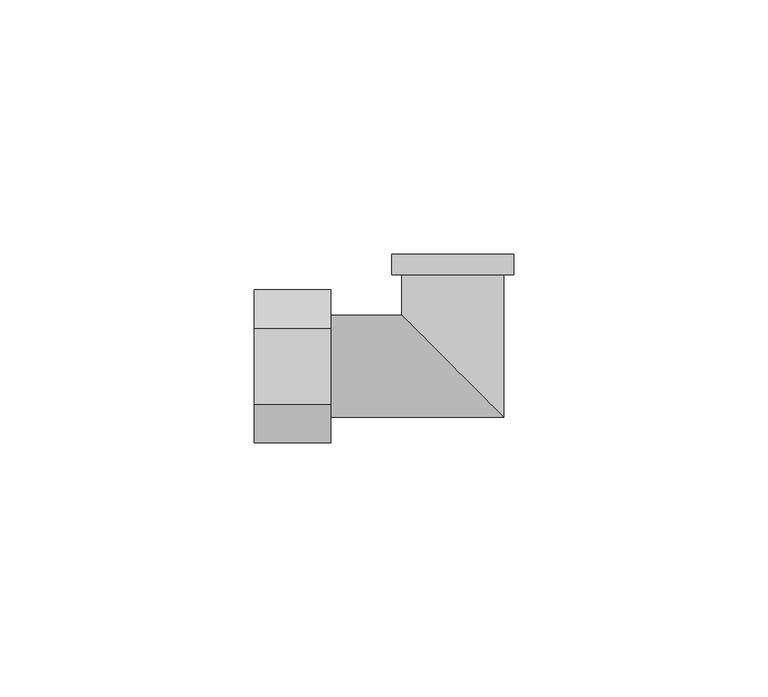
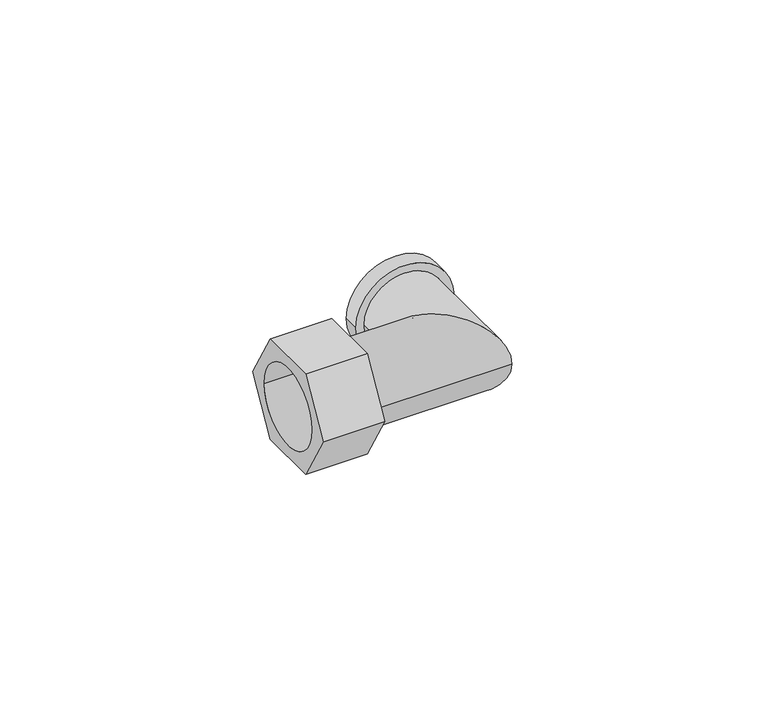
"""IFC4 building model written with IfcOpenShell, lengths in millimetres: pipe fitting geometry, БИР ПЕКС_КМП_Угольник_Резьба_Внутренняя : Угольник с внутренней резьбой_КМП."""

from ifc_helpers import new_model, si_unit, point, frame, origin, origin_2d, place, context, project, spatial, polyline, circle_curve, ellipse_curve, trimmed, segment, composite_curve, outline, extrude, source, transform, mapped, element, save
from ifc_brep_helpers import plane_surface, cylinder_surface, revolved_surface, advanced_brep


def pipe_fitting_59298400(model_context):
    return source(origin(), model_context, "Body", "SolidModel", [
        extrude(outline(polyline([(-7.5, -12.9903811), (-15.0, 0.0), (-7.5, 12.9903811), (7.5, 12.9903811), (15.0, 0.0), (7.5, -12.9903811), (-7.5, -12.9903811)]), holes=[composite_curve([segment(trimmed(circle_curve(origin_2d(), 10.0), [point((-10.0, 0.0))], [point((10.0, 0.0))], True, "CARTESIAN"), True, "CONTINUOUS"), segment(trimmed(circle_curve(origin_2d(), 10.0), [point((10.0, 0.0))], [point((-10.0, 0.0))], True, "CARTESIAN"), True, "CONTINUOUS")], self_intersect=False)]), frame((-39.0, 0.0, 0.0), z_axis=(1.0, 0.0, 0.0), x_axis=(0.0, 1.0, 0.0)), (0.0, 0.0, 1.0), 15.0),
        advanced_brep(
        [(-24.0, -10.0, 0.0), (-24.0, 10.0, 0.0), (-24.0, -9.5, 0.0), (-24.0, 9.5, 0.0), (10.0, -10.0, 0.0), (-10.0, 10.0, 0.0), (-12.0, 22.0, 0.0), (12.0, 22.0, 0.0), (9.5, 22.0, 0.0), (-9.5, 22.0, 0.0), (10.0, 18.0, 0.0), (-10.0, 18.0, 0.0), (-12.0, 18.0, 0.0), (12.0, 18.0, 0.0), (9.5, -9.5, 0.0), (-9.5, 9.5, 0.0), (-9.5, 18.0, 0.0), (9.5, 18.0, 0.0)],
        [
            (0, 1, circle_curve(frame((-24.0, 0.0, 0.0), z_axis=(-1.0, 0.0, 0.0), x_axis=(0.0, 1.0, 0.0)), 10.0)),
            (1, 0, circle_curve(frame((-24.0, 0.0, 0.0), z_axis=(-1.0, 0.0, 0.0), x_axis=(0.0, 1.0, 0.0)), 10.0)),
            (2, 3, circle_curve(frame((-24.0, 0.0, 0.0), z_axis=(1.0, 0.0, 0.0), x_axis=(0.0, 1.0, 0.0)), 9.5)),
            (3, 2, circle_curve(frame((-24.0, 0.0, 0.0), z_axis=(1.0, 0.0, 0.0), x_axis=(0.0, 1.0, 0.0)), 9.5)),
            (0, 4),
            (4, 5, ellipse_curve(frame((0.0, 0.0, 0.0), z_axis=(-0.7071067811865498, -0.7071067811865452, 0.0), x_axis=(-0.7071067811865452, 0.7071067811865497, 0.0)), 14.1421356, 10.0)),
            (5, 1),
            (5, 4, ellipse_curve(frame((0.0, 0.0, 0.0), z_axis=(-0.7071067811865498, -0.7071067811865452, 0.0), x_axis=(-0.7071067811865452, 0.7071067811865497, 0.0)), 14.1421356, 10.0)),
            (6, 7, circle_curve(frame((0.0, 22.0, 0.0), z_axis=(0.0, 1.0, 0.0), x_axis=(1.0, 0.0, 0.0)), 12.0)),
            (7, 6, circle_curve(frame((0.0, 22.0, 0.0), z_axis=(0.0, 1.0, 0.0), x_axis=(1.0, 0.0, 0.0)), 12.0)),
            (8, 9, circle_curve(frame((0.0, 22.0, 0.0), z_axis=(0.0, -1.0, 0.0), x_axis=(-1.0, 0.0, 0.0)), 9.5)),
            (9, 8, circle_curve(frame((0.0, 22.0, 0.0), z_axis=(0.0, -1.0, 0.0), x_axis=(-1.0, 0.0, 0.0)), 9.5)),
            (4, 10),
            (10, 11, circle_curve(frame((0.0, 18.0, 0.0), z_axis=(0.0, -1.0, 0.0), x_axis=(-1.0, 0.0, 0.0)), 10.0)),
            (11, 5),
            (11, 10, circle_curve(frame((0.0, 18.0, 0.0), z_axis=(0.0, -1.0, 0.0), x_axis=(-1.0, 0.0, 0.0)), 10.0)),
            (12, 13, circle_curve(frame((0.0, 18.0, 0.0), z_axis=(0.0, -1.0, 0.0), x_axis=(1.0, 0.0, 0.0)), 12.0)),
            (13, 12, circle_curve(frame((0.0, 18.0, 0.0), z_axis=(0.0, -1.0, 0.0), x_axis=(1.0, 0.0, 0.0)), 12.0)),
            (12, 6),
            (7, 13),
            (2, 14),
            (14, 15, ellipse_curve(frame((0.0, 0.0, 0.0), z_axis=(0.7071067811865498, 0.7071067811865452, 0.0), x_axis=(0.7071067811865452, -0.7071067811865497, 0.0)), 13.4350288, 9.5)),
            (15, 3),
            (15, 14, ellipse_curve(frame((0.0, 0.0, 0.0), z_axis=(0.7071067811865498, 0.7071067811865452, 0.0), x_axis=(0.7071067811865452, -0.7071067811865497, 0.0)), 13.4350288, 9.5)),
            (9, 16),
            (16, 15),
            (14, 17),
            (17, 8),
        ],
        [
            plane_surface(frame((-24.0, 0.0, 0.0), z_axis=(-1.0, 0.0, 0.0), x_axis=(0.0, 0.0, 1.0))),
            cylinder_surface(frame((-24.0, 0.0, 0.0), z_axis=(-1.0, 0.0, 0.0), x_axis=(0.0, 1.0, 0.0)), 10.0),
            plane_surface(frame((0.0, 22.0, 0.0), z_axis=(0.0, 1.0, 0.0), x_axis=(0.0, 0.0, 1.0))),
            cylinder_surface(frame((0.0, 0.0, 0.0), z_axis=(0.0, -1.0, 0.0), x_axis=(-1.0, 0.0, 0.0)), 10.0),
            plane_surface(frame((12.0, 18.0, 0.0), z_axis=(0.0, -1.0, 0.0), x_axis=(0.0, 0.0, 1.0))),
            cylinder_surface(frame((0.0, 22.0, 0.0), z_axis=(0.0, -1.0, 0.0), x_axis=(1.0, 0.0, 0.0)), 12.0),
            revolved_surface(polyline([(9.5, 9.5, 0.0), (-24.0, 9.5, 0.0)]), (-24.0, 0.0, 0.0), (1.0, 0.0, 0.0)),
            revolved_surface(polyline([(-9.5, 22.0, 0.0), (-9.5, -9.5, 0.0)]), (0.0, 0.0, 0.0), (0.0, 1.0, 0.0)),
        ],
        [
            (0, [[1, 2], [3, 4]]),
            (1, [[-1, 5, 6, 7]]),
            (1, [[-2, -7, 8, -5]]),
            (2, [[9, 10], [11, 12]]),
            (3, [[-6, 13, 14, 15]]),
            (3, [[-8, -15, 16, -13]]),
            (4, [[17, 18], [-14, -16]]),
            (5, [[-17, 19, -10, 20]]),
            (5, [[-18, -20, -9, -19]]),
            (6, [[-3, 21, 22, 23]]),
            (6, [[-4, -23, 24, -21]]),
            (7, [[-12, 25, 26, -22, 27, 28]]),
            (7, [[-11, -28, -27, -24, -26, -25]]),
        ],
    ),
    ])


if __name__ == "__main__":
    model = new_model("IFC4")
    model_context = context("Model", 3, world=origin())
    ifc_project = project(units=[si_unit("LENGTHUNIT", "METRE", prefix="MILLI")], contexts=[model_context])
    site = spatial("IfcSite", under=ifc_project)
    building = spatial("IfcBuilding", under=site)
    placement = place(None, origin())
    pipe_fitting_shape = pipe_fitting_59298400(model_context)
    element("IfcPipeFitting", 1, ObjectType="БИР ПЕКС_КМП_Угольник_Резьба_Внутренняя : Угольник с внутренней резьбой_КМП", at=placement, inside=building, context=model_context, shape_type="MappedRepresentation", body=[
        mapped(pipe_fitting_shape, transform((0.0, 0.0, 0.0), x_axis=(1.0, 0.0, 0.0), y_axis=(0.0, 1.0, 0.0), z_axis=(0.0, 0.0, 1.0))),
    ])
    save(model, "model.ifc")
